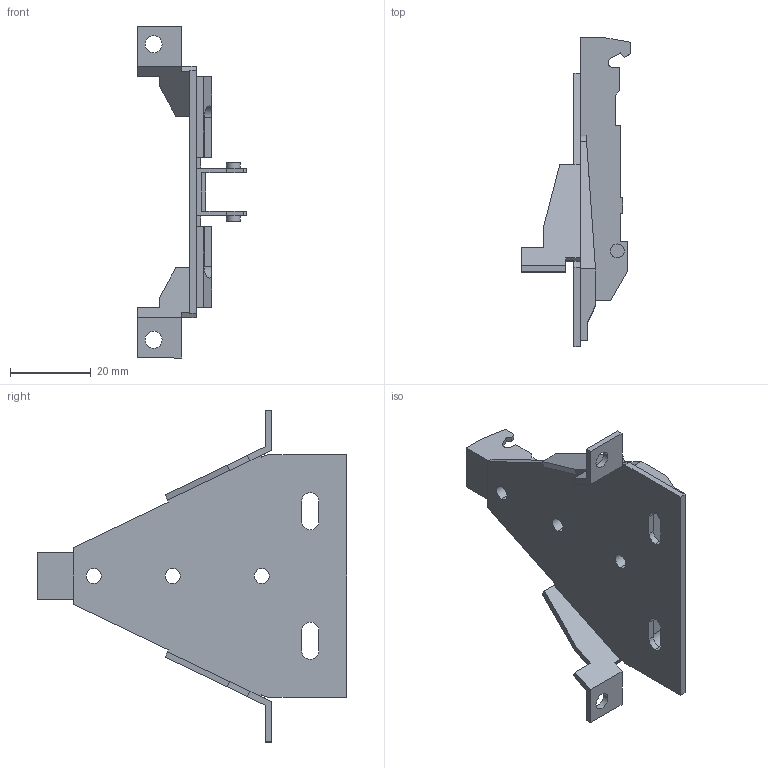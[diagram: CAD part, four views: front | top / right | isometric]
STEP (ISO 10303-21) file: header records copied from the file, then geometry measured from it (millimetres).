
FILE_DESCRIPTION (( 'STEP AP214' ), '1' );
FILE_NAME ('Eco Delta Spax Flange_H 3,5.step', '2010-11-18T10:11:58', ( 'grass' ), ( '' ), 'SwSTEP 2.0', 'SolidWorks 2010', '' );
FILE_SCHEMA (( 'AUTOMOTIVE_DESIGN' ));
Length unit declared in the file: millimetre
Products named in the file (1): Eco Delta Spax Flange_H 3,5
Bounding box: 27 x 76.45 x 82 mm (x, y, z)
Volume: 12215.9 mm3; surface area: 11152.7 mm2
Topology: 1 solids, 1 shells, 145 faces, 421 edges, 280 vertices
Faces by surface type: plane 116, cylinder 29
Entity records: 4796 total; most frequent: CARTESIAN_POINT 862, ORIENTED_EDGE 842, DIRECTION 763, EDGE_CURVE 421, LINE 361, VECTOR 361, VERTEX_POINT 280, AXIS2_PLACEMENT_3D 201
